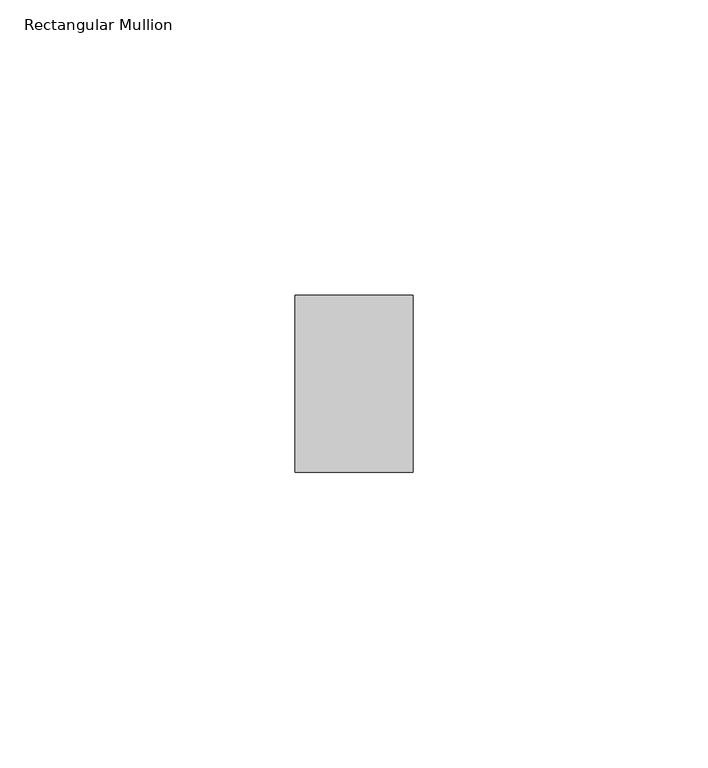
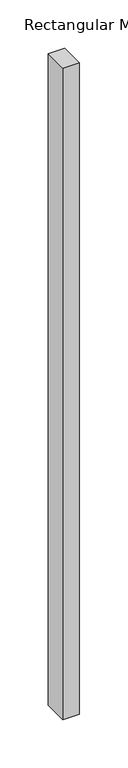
"""IFC4 building model written with IfcOpenShell, lengths in millimetres: member geometry, Rectangular Mullion : ARQ_TV_MULL_30x20mm."""

from ifc_helpers import new_model, si_unit, frame, origin, place, context, project, spatial, polyline, outline, extrude, source, transform, mapped, element, save


def rectangular_mullion_9b3c7308(model_context):
    return source(origin(), model_context, "Body", "SweptSolid", [
        extrude(outline(polyline([(10.0, 15.0), (10.0, -15.0), (-10.0, -15.0), (-10.0, 15.0), (10.0, 15.0)])), frame((0.0, 0.0, -825.0), z_axis=(0.0, 0.0, 1.0), x_axis=(1.0, 0.0, 0.0)), (0.0, 0.0, 1.0), 825.0),
    ])


if __name__ == "__main__":
    model = new_model("IFC4")
    model_context = context("Model", 3, world=origin())
    ifc_project = project(units=[si_unit("LENGTHUNIT", "METRE", prefix="MILLI")], contexts=[model_context])
    site = spatial("IfcSite", under=ifc_project)
    building = spatial("IfcBuilding", under=site)
    placement = place(None, origin())
    rectangular_mullion_shape = rectangular_mullion_9b3c7308(model_context)
    element("IfcMember", 1, ObjectType="Rectangular Mullion : ARQ_TV_MULL_30x20mm", at=placement, inside=building, context=model_context, shape_type="MappedRepresentation", body=[
        mapped(rectangular_mullion_shape, transform((0.0, 0.0, 0.0), x_axis=(1.0, 0.0, 0.0), y_axis=(0.0, 1.0, 0.0), z_axis=(0.0, 0.0, 1.0))),
    ])
    save(model, "model.ifc")
